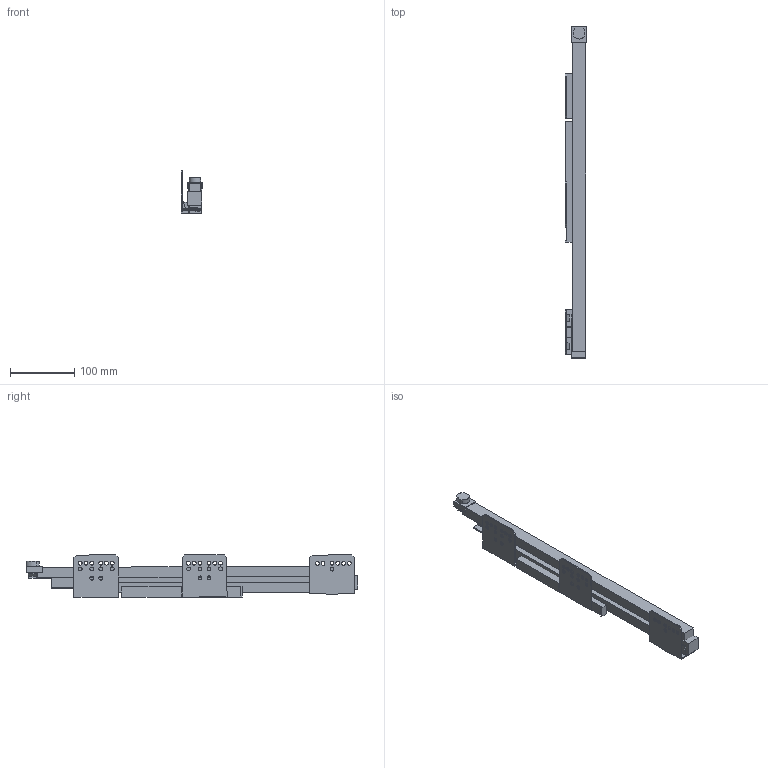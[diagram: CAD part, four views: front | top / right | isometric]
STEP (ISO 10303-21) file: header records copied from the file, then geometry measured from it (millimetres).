
FILE_DESCRIPTION (( 'STEP AP214' ), '1' );
FILE_NAME ('_IMOS Dynamic-XP VA 60kg NL500 LI Tipmatic.step', '2010-07-08T13:26:59', ( 'grass' ), ( '' ), 'SwSTEP 2.0', 'SolidWorks 2010', '' );
FILE_SCHEMA (( 'AUTOMOTIVE_DESIGN' ));
Length unit declared in the file: millimetre
Products named in the file (1): _IMOS Dynamic-XP VA 60kg NL500 LI Tipmatic
Bounding box: 33.14 x 518.02 x 66.67 mm (x, y, z)
Volume: 463080 mm3; surface area: 178847.4 mm2
Topology: 9 solids, 9 shells, 238 faces, 652 edges, 434 vertices
Faces by surface type: plane 167, cylinder 71
Entity records: 7758 total; most frequent: CARTESIAN_POINT 1325, ORIENTED_EDGE 1304, DIRECTION 1274, EDGE_CURVE 652, LINE 508, VECTOR 508, VERTEX_POINT 434, AXIS2_PLACEMENT_3D 383
